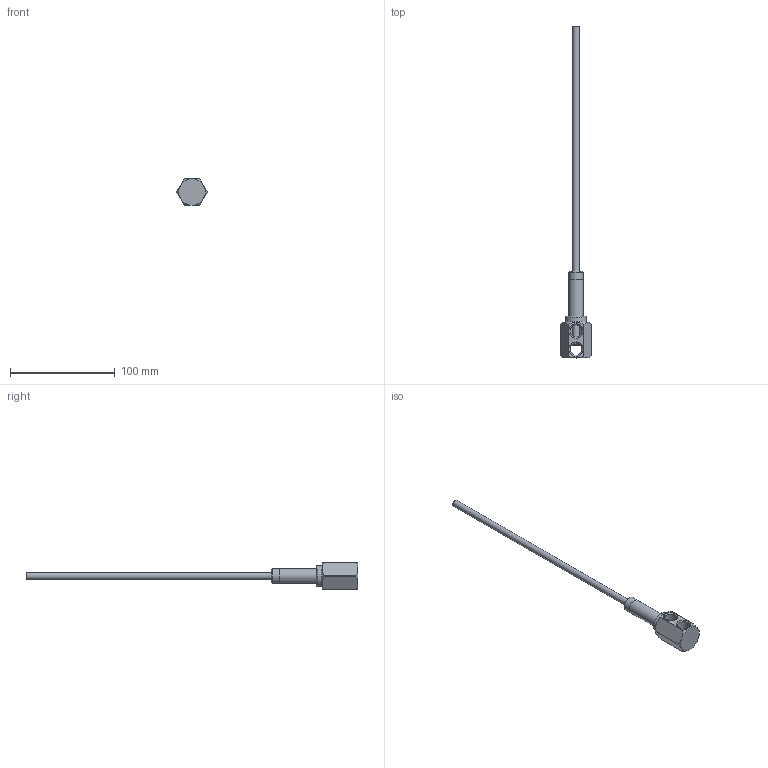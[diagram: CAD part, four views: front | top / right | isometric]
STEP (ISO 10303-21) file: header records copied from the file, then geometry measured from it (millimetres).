
FILE_DESCRIPTION(/* description */ (''),/* implementation_level */ '2;1');
FILE_NAME(/* name */ 'C:/Users/drich/Desktop/146N-4-HFT v1.step',/* time_stamp */ '2020-01-15T19:37:17-06:00',/* author */ (''),/* organization */ (''),/* preprocessor_version */ 'ST-DEVELOPER v18',/* originating_system */ 'Autodesk Translation Framework v8.12.0.6',/* authorisation */ '');
FILE_SCHEMA (('AUTOMOTIVE_DESIGN { 1 0 10303 214 3 1 1 }'));
Length unit declared in the file: inch
Products named in the file (4): 146N-4-HFT; 146H-4; SSPN14-2; HF250T-12
Assembly tree (3 placements, depth 2):
  146N-4-HFT
    146H-4
    SSPN14-2
    HF250T-12
Bounding box: 29.26 x 317.07 x 25.4 mm (x, y, z)
Volume: 20343.1 mm3; surface area: 21355.7 mm2
Topology: 3 solids, 3 shells, 56 faces, 150 edges, 104 vertices
Faces by surface type: cylinder 20, plane 17, cone 14, torus 5
Full cylindrical faces by diameter (mm): 5.842 x1, 6.35 x1, 6.909 x1, 7.818 x1, 7.976 x1, 9.246 x1, 11.668 x4, 13.665 x2, 13.716 x1, 19.812 x1
Entity records: 2004 total; most frequent: CARTESIAN_POINT 414, DIRECTION 344, ORIENTED_EDGE 300, AXIS2_PLACEMENT_3D 154, EDGE_CURVE 150, VERTEX_POINT 104, CIRCLE 89, EDGE_LOOP 70
